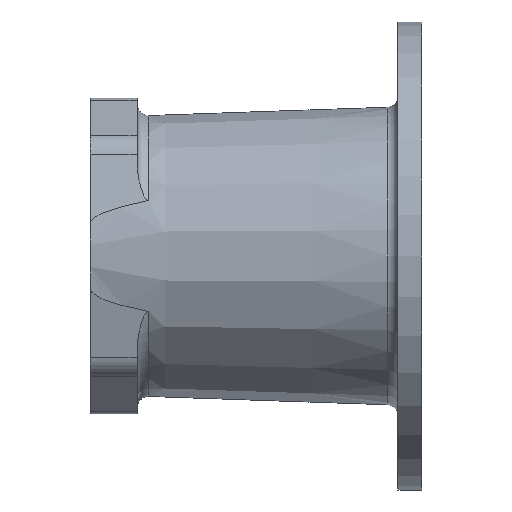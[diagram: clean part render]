
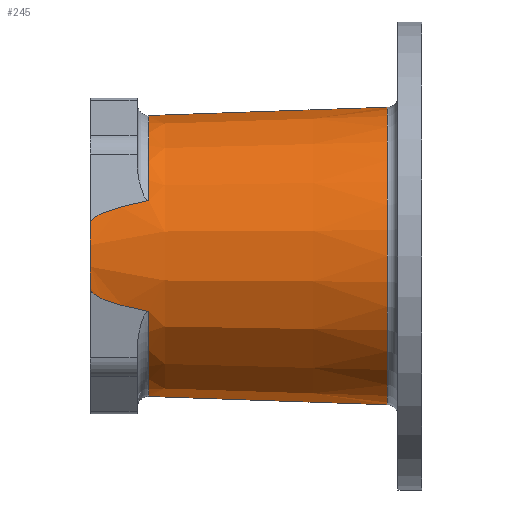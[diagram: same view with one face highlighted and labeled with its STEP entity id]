
A CAD part, left-side view. The second image highlights one B-rep face of the part: STEP entity #245.
In plain terms, the highlighted conical face has half-angle 2 degrees and reference radius 56.333 mm.
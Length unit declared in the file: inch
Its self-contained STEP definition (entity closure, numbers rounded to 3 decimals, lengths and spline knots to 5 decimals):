
#27 = EDGE_CURVE ( 'NONE', #3976, #1832, #840, .T. ) ;
#57 = DIRECTION ( 'NONE',  ( 0., -0.999, 0.035 ) ) ;
#81 = VERTEX_POINT ( 'NONE', #7485 ) ;
#166 = CARTESIAN_POINT ( 'NONE',  ( -2.15645, 5.31, -0.51819 ) ) ;
#245 = ADVANCED_FACE ( 'NONE', ( #6187 ), #5993, .T. ) ;
#254 = ORIENTED_EDGE ( 'NONE', *, *, #3379, .T. ) ;
#376 = CARTESIAN_POINT ( 'NONE',  ( -2.119, 5.14487, -0.67404 ) ) ;
#488 = DIRECTION ( 'NONE',  ( 0., 0., 1. ) ) ;
#589 = CARTESIAN_POINT ( 'NONE',  ( -2.1351, 5.25643, 0.60707 ) ) ;
#600 = ORIENTED_EDGE ( 'NONE', *, *, #6481, .T. ) ;
#782 = AXIS2_PLACEMENT_3D ( 'NONE', #6632, #3069, #7236 ) ;
#840 = CIRCLE ( 'NONE', #7388, 2.25054 ) ;
#932 = CARTESIAN_POINT ( 'NONE',  ( -2.14656, 5.29909, -0.55937 ) ) ;
#958 = CARTESIAN_POINT ( 'NONE',  ( -2.10898, 5.04536, -0.71576 ) ) ;
#975 = EDGE_CURVE ( 'NONE', #3976, #2287, #6480, .T. ) ;
#1082 = CARTESIAN_POINT ( 'NONE',  ( 0., 4.37372, 0. ) ) ;
#1137 = CARTESIAN_POINT ( 'NONE',  ( -2.0851, 4.71328, 0.81514 ) ) ;
#1161 = CARTESIAN_POINT ( 'NONE',  ( -2.14041, 5.28003, 0.58497 ) ) ;
#1249 = DIRECTION ( 'NONE',  ( 0., -0.999, -0.035 ) ) ;
#1263 = CARTESIAN_POINT ( 'NONE',  ( -2.15645, 5.31, 0.51819 ) ) ;
#1290 = ORIENTED_EDGE ( 'NONE', *, *, #3840, .T. ) ;
#1515 = CARTESIAN_POINT ( 'NONE',  ( -2.14033, 5.27973, -0.58531 ) ) ;
#1538 = CARTESIAN_POINT ( 'NONE',  ( -2.09901, 4.92198, -0.75723 ) ) ;
#1574 = DIRECTION ( 'NONE',  ( 0., -1., 0. ) ) ;
#1732 = CARTESIAN_POINT ( 'NONE',  ( -2.09905, 4.92252, 0.75707 ) ) ;
#1759 = CARTESIAN_POINT ( 'NONE',  ( -2.14664, 5.29925, 0.55905 ) ) ;
#1832 = VERTEX_POINT ( 'NONE', #4051 ) ;
#1945 = CARTESIAN_POINT ( 'NONE',  ( 0., 5.31, 0. ) ) ;
#2111 = CARTESIAN_POINT ( 'NONE',  ( -2.13501, 5.256, -0.60742 ) ) ;
#2138 = CARTESIAN_POINT ( 'NONE',  ( -2.08509, 4.71303, -0.8152 ) ) ;
#2222 = AXIS2_PLACEMENT_3D ( 'NONE', #7588, #4012, #488 ) ;
#2287 = VERTEX_POINT ( 'NONE', #7435 ) ;
#2329 = CARTESIAN_POINT ( 'NONE',  ( -2.10903, 5.04592, 0.71555 ) ) ;
#2354 = CARTESIAN_POINT ( 'NONE',  ( -2.15388, 5.31, 0.52892 ) ) ;
#2430 = CARTESIAN_POINT ( 'NONE',  ( 0., 5.31, 2.21784 ) ) ;
#2546 = DIRECTION ( 'NONE',  ( 0., 0., -1. ) ) ;
#2687 = CARTESIAN_POINT ( 'NONE',  ( -2.15385, 5.31, -0.52902 ) ) ;
#2709 = CARTESIAN_POINT ( 'NONE',  ( -2.13037, 5.22986, -0.62674 ) ) ;
#2732 = CARTESIAN_POINT ( 'NONE',  ( -2.07124, 4.45893, -0.8728 ) ) ;
#2804 = VERTEX_POINT ( 'NONE', #6537 ) ;
#2813 = ORIENTED_EDGE ( 'NONE', *, *, #27, .T. ) ;
#2896 = CARTESIAN_POINT ( 'NONE',  ( -2.06715, 4.37372, 0.88983 ) ) ;
#2920 = CARTESIAN_POINT ( 'NONE',  ( -2.11911, 5.14581, 0.6736 ) ) ;
#2935 = ORIENTED_EDGE ( 'NONE', *, *, #7275, .T. ) ;
#3069 = DIRECTION ( 'NONE',  ( 0., 1., 0. ) ) ;
#3288 = CARTESIAN_POINT ( 'NONE',  ( -2.15134, 5.30758, -0.53948 ) ) ;
#3310 = CARTESIAN_POINT ( 'NONE',  ( -2.12622, 5.2022, -0.64401 ) ) ;
#3331 = VECTOR ( 'NONE', #57, 39.37008 ) ;
#3379 = EDGE_CURVE ( 'NONE', #5880, #4102, #4955, .T. ) ;
#3417 = ORIENTED_EDGE ( 'NONE', *, *, #975, .F. ) ;
#3506 = VERTEX_POINT ( 'NONE', #1263 ) ;
#3520 = CARTESIAN_POINT ( 'NONE',  ( -2.12631, 5.20334, 0.64364 ) ) ;
#3839 = CIRCLE ( 'NONE', #2222, 2.25054 ) ;
#3840 = EDGE_CURVE ( 'NONE', #4102, #81, #3839, .T. ) ;
#3902 = CARTESIAN_POINT ( 'NONE',  ( -2.12125, 5.16429, -0.6647 ) ) ;
#3976 = VERTEX_POINT ( 'NONE', #4781 ) ;
#4012 = DIRECTION ( 'NONE',  ( 0., -1., 0. ) ) ;
#4051 = CARTESIAN_POINT ( 'NONE',  ( -2.06715, 4.37372, 0.88983 ) ) ;
#4102 = VERTEX_POINT ( 'NONE', #4617 ) ;
#4114 = CARTESIAN_POINT ( 'NONE',  ( -2.1335, 5.24801, 0.6137 ) ) ;
#4345 = VECTOR ( 'NONE', #1249, 39.37008 ) ;
#4468 = CARTESIAN_POINT ( 'NONE',  ( -2.15645, 5.31, -0.51819 ) ) ;
#4493 = CARTESIAN_POINT ( 'NONE',  ( -2.11267, 5.08578, -0.70039 ) ) ;
#4617 = CARTESIAN_POINT ( 'NONE',  ( -2.06715, 4.37372, -0.88983 ) ) ;
#4683 = CARTESIAN_POINT ( 'NONE',  ( -2.0756, 4.54403, 0.85468 ) ) ;
#4715 = CARTESIAN_POINT ( 'NONE',  ( -2.13854, 5.27242, 0.59273 ) ) ;
#4723 = CIRCLE ( 'NONE', #5406, 2.21784 ) ;
#4781 = CARTESIAN_POINT ( 'NONE',  ( 0., 4.37372, 2.25054 ) ) ;
#4806 = CARTESIAN_POINT ( 'NONE',  ( 0., 5.31, -2.21784 ) ) ;
#4897 = ORIENTED_EDGE ( 'NONE', *, *, #4959, .T. ) ;
#4955 = B_SPLINE_CURVE_WITH_KNOTS ( 'NONE', 3,
 ( #4468, #2687, #3288, #932, #5065, #1515, #5644, #2111, #6239, #2709, #6885, #3310, #7475, #3902, #376, #4493, #958, #5091, #1538, #5670, #2138, #6265, #2732, #6909 ),
 .UNSPECIFIED., .F., .F.,
 ( 4, 2, 2, 2, 2, 2, 2, 2, 2, 2, 2, 4 ),
 ( 0., 0.00083, 0.00167, 0.0025, 0.00333, 0.00417, 0.005, 0.00667, 0.01, 0.01334, 0.02001, 0.02668 ),
 .UNSPECIFIED. ) ;
#4959 = EDGE_CURVE ( 'NONE', #1832, #3506, #5789, .T. ) ;
#5005 = EDGE_CURVE ( 'NONE', #2804, #2287, #5661, .T. ) ;
#5065 = CARTESIAN_POINT ( 'NONE',  ( -2.14439, 5.29328, -0.5684 ) ) ;
#5091 = CARTESIAN_POINT ( 'NONE',  ( -2.10214, 4.96343, -0.74422 ) ) ;
#5267 = CARTESIAN_POINT ( 'NONE',  ( -2.09024, 4.79754, 0.79376 ) ) ;
#5293 = CARTESIAN_POINT ( 'NONE',  ( -2.14443, 5.29339, 0.56822 ) ) ;
#5371 = DIRECTION ( 'NONE',  ( 0., -1., 0. ) ) ;
#5406 = AXIS2_PLACEMENT_3D ( 'NONE', #1945, #6067, #2546 ) ;
#5423 = ORIENTED_EDGE ( 'NONE', *, *, #5005, .T. ) ;
#5644 = CARTESIAN_POINT ( 'NONE',  ( -2.13847, 5.27209, -0.59305 ) ) ;
#5661 = CIRCLE ( 'NONE', #782, 2.38393 ) ;
#5670 = CARTESIAN_POINT ( 'NONE',  ( -2.09021, 4.79714, -0.79386 ) ) ;
#5789 = B_SPLINE_CURVE_WITH_KNOTS ( 'NONE', 3,
 ( #2896, #7072, #4683, #1137, #5267, #1732, #5855, #2329, #6478, #2920, #7096, #3520, #7686, #4114, #589, #4715, #1161, #5293, #1759, #5877, #2354, #6507 ),
 .UNSPECIFIED., .F., .F.,
 ( 4, 2, 2, 2, 2, 2, 2, 2, 2, 2, 4 ),
 ( -0.00484, 0.00179, 0.00842, 0.01174, 0.01505, 0.01671, 0.01837, 0.0192, 0.02003, 0.02086, 0.02169 ),
 .UNSPECIFIED. ) ;
#5855 = CARTESIAN_POINT ( 'NONE',  ( -2.10218, 4.96393, 0.74406 ) ) ;
#5877 = CARTESIAN_POINT ( 'NONE',  ( -2.15133, 5.30755, 0.53951 ) ) ;
#5880 = VERTEX_POINT ( 'NONE', #166 ) ;
#5907 = LINE ( 'NONE', #4806, #4345 ) ;
#5993 = CONICAL_SURFACE ( 'NONE', #7183, 2.21784, 0.035 ) ;
#6067 = DIRECTION ( 'NONE',  ( 0., -1., 0. ) ) ;
#6187 = FACE_OUTER_BOUND ( 'NONE', #6200, .T. ) ;
#6200 = EDGE_LOOP ( 'NONE', ( #3417, #2813, #4897, #2935, #254, #1290, #600, #5423 ) ) ;
#6239 = CARTESIAN_POINT ( 'NONE',  ( -2.13341, 5.2475, -0.61409 ) ) ;
#6265 = CARTESIAN_POINT ( 'NONE',  ( -2.07559, 4.54393, -0.8547 ) ) ;
#6338 = CARTESIAN_POINT ( 'NONE',  ( 0., 5.31, 0. ) ) ;
#6478 = CARTESIAN_POINT ( 'NONE',  ( -2.11273, 5.08646, 0.70013 ) ) ;
#6480 = LINE ( 'NONE', #2430, #3331 ) ;
#6481 = EDGE_CURVE ( 'NONE', #81, #2804, #5907, .T. ) ;
#6507 = CARTESIAN_POINT ( 'NONE',  ( -2.15645, 5.31, 0.51819 ) ) ;
#6537 = CARTESIAN_POINT ( 'NONE',  ( 0., 0.55372, -2.38393 ) ) ;
#6632 = CARTESIAN_POINT ( 'NONE',  ( 0., 0.55372, 0. ) ) ;
#6826 = DIRECTION ( 'NONE',  ( 0., 0., -1. ) ) ;
#6885 = CARTESIAN_POINT ( 'NONE',  ( -2.12893, 5.22071, -0.63272 ) ) ;
#6909 = CARTESIAN_POINT ( 'NONE',  ( -2.06715, 4.37372, -0.88983 ) ) ;
#7072 = CARTESIAN_POINT ( 'NONE',  ( -2.07125, 4.45898, 0.87279 ) ) ;
#7096 = CARTESIAN_POINT ( 'NONE',  ( -2.12137, 5.1653, 0.6642 ) ) ;
#7183 = AXIS2_PLACEMENT_3D ( 'NONE', #6338, #5371, #6826 ) ;
#7236 = DIRECTION ( 'NONE',  ( 0., 0., -1. ) ) ;
#7275 = EDGE_CURVE ( 'NONE', #3506, #5880, #4723, .T. ) ;
#7388 = AXIS2_PLACEMENT_3D ( 'NONE', #1082, #1574, #7482 ) ;
#7435 = CARTESIAN_POINT ( 'NONE',  ( 0., 0.55372, 2.38393 ) ) ;
#7475 = CARTESIAN_POINT ( 'NONE',  ( -2.12494, 5.19281, -0.64935 ) ) ;
#7482 = DIRECTION ( 'NONE',  ( 0., 0., 1. ) ) ;
#7485 = CARTESIAN_POINT ( 'NONE',  ( 0., 4.37372, -2.25054 ) ) ;
#7588 = CARTESIAN_POINT ( 'NONE',  ( 0., 4.37372, 0. ) ) ;
#7686 = CARTESIAN_POINT ( 'NONE',  ( -2.12899, 5.2219, 0.6325 ) ) ;
